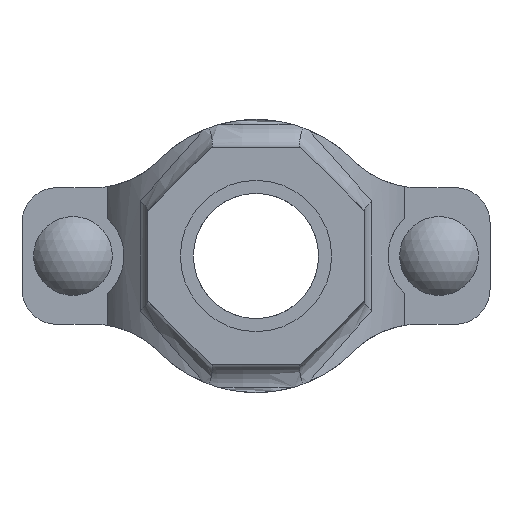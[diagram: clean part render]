
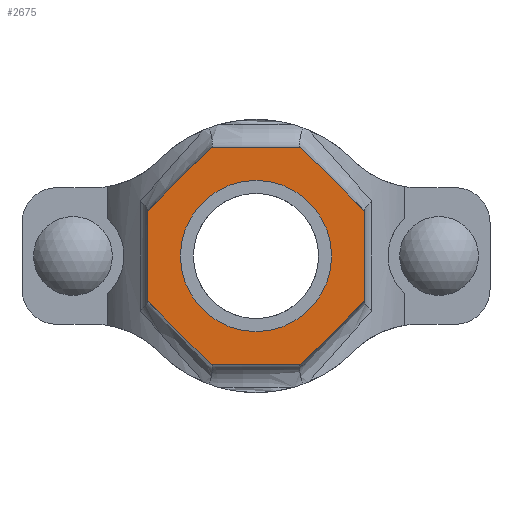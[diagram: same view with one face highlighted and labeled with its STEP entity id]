
A CAD part, front view. The second image highlights one B-rep face of the part: STEP entity #2675.
In plain terms, the highlighted planar face has unit normal (0, -1, 0) as drawn and (0, 1, 0) by its records, which use the part's own axes.
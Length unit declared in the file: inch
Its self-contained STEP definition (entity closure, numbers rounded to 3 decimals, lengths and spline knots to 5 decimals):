
#214=FACE_BOUND('',#495,.T.);
#339=FACE_OUTER_BOUND('',#494,.T.);
#494=EDGE_LOOP('',(#2246,#2247,#2248,#2249,#2250,#2251,#2252,#2253));
#495=EDGE_LOOP('',(#2254));
#634=LINE('',#4985,#820);
#637=LINE('',#4990,#823);
#639=LINE('',#4994,#825);
#641=LINE('',#4998,#827);
#675=LINE('',#5357,#861);
#677=LINE('',#5361,#863);
#679=LINE('',#5365,#865);
#681=LINE('',#5368,#867);
#820=VECTOR('',#3436,0.3937);
#823=VECTOR('',#3441,0.3937);
#825=VECTOR('',#3445,0.3937);
#827=VECTOR('',#3449,0.3937);
#861=VECTOR('',#3571,0.3937);
#863=VECTOR('',#3575,0.3937);
#865=VECTOR('',#3579,0.3937);
#867=VECTOR('',#3583,0.3937);
#953=CIRCLE('',#2942,0.83);
#1157=VERTEX_POINT('',#4982);
#1158=VERTEX_POINT('',#4984);
#1159=VERTEX_POINT('',#4988);
#1160=VERTEX_POINT('',#4992);
#1161=VERTEX_POINT('',#4996);
#1186=VERTEX_POINT('',#5190);
#1210=VERTEX_POINT('',#5356);
#1211=VERTEX_POINT('',#5360);
#1212=VERTEX_POINT('',#5364);
#1491=EDGE_CURVE('',#1158,#1157,#634,.T.);
#1494=EDGE_CURVE('',#1157,#1159,#637,.T.);
#1496=EDGE_CURVE('',#1159,#1160,#639,.T.);
#1498=EDGE_CURVE('',#1160,#1161,#641,.T.);
#1535=EDGE_CURVE('',#1186,#1186,#953,.T.);
#1567=EDGE_CURVE('',#1210,#1158,#675,.T.);
#1569=EDGE_CURVE('',#1211,#1210,#677,.T.);
#1571=EDGE_CURVE('',#1212,#1211,#679,.T.);
#1573=EDGE_CURVE('',#1161,#1212,#681,.T.);
#2246=ORIENTED_EDGE('',*,*,#1573,.T.);
#2247=ORIENTED_EDGE('',*,*,#1571,.T.);
#2248=ORIENTED_EDGE('',*,*,#1569,.T.);
#2249=ORIENTED_EDGE('',*,*,#1567,.T.);
#2250=ORIENTED_EDGE('',*,*,#1491,.T.);
#2251=ORIENTED_EDGE('',*,*,#1494,.T.);
#2252=ORIENTED_EDGE('',*,*,#1496,.T.);
#2253=ORIENTED_EDGE('',*,*,#1498,.T.);
#2254=ORIENTED_EDGE('',*,*,#1535,.T.);
#2404=PLANE('',#2965);
#2675=ADVANCED_FACE('',(#339,#214),#2404,.T.);
#2942=AXIS2_PLACEMENT_3D('',#5191,#3517,#3518);
#2965=AXIS2_PLACEMENT_3D('',#5369,#3584,#3585);
#3436=DIRECTION('',(0.,0.,1.));
#3441=DIRECTION('',(0.707,0.,0.707));
#3445=DIRECTION('',(1.,0.,0.));
#3449=DIRECTION('',(0.707,0.,-0.707));
#3517=DIRECTION('center_axis',(0.,-1.,0.));
#3518=DIRECTION('ref_axis',(-1.,0.,0.));
#3571=DIRECTION('',(-0.707,0.,0.707));
#3575=DIRECTION('',(-1.,0.,0.));
#3579=DIRECTION('',(-0.707,0.,-0.707));
#3583=DIRECTION('',(0.,0.,-1.));
#3584=DIRECTION('center_axis',(0.,1.,0.));
#3585=DIRECTION('ref_axis',(0.,0.,1.));
#4982=CARTESIAN_POINT('',(-1.19,3.,0.49291));
#4984=CARTESIAN_POINT('',(-1.19,3.,-0.49291));
#4985=CARTESIAN_POINT('',(-1.19,3.,0.49291));
#4988=CARTESIAN_POINT('',(-0.49291,3.,1.19));
#4990=CARTESIAN_POINT('',(-0.49291,3.,1.19));
#4992=CARTESIAN_POINT('',(0.49291,3.,1.19));
#4994=CARTESIAN_POINT('',(0.49291,3.,1.19));
#4996=CARTESIAN_POINT('',(1.19,3.,0.49291));
#4998=CARTESIAN_POINT('',(1.19,3.,0.49291));
#5190=CARTESIAN_POINT('',(0.83,3.,0.));
#5191=CARTESIAN_POINT('Origin',(0.,3.,0.));
#5356=CARTESIAN_POINT('',(-0.49291,3.,-1.19));
#5357=CARTESIAN_POINT('',(-1.19,3.,-0.49291));
#5360=CARTESIAN_POINT('',(0.49291,3.,-1.19));
#5361=CARTESIAN_POINT('',(-0.49291,3.,-1.19));
#5364=CARTESIAN_POINT('',(1.19,3.,-0.49291));
#5365=CARTESIAN_POINT('',(0.49291,3.,-1.19));
#5368=CARTESIAN_POINT('',(1.19,3.,-0.49291));
#5369=CARTESIAN_POINT('Origin',(0.,3.,0.));
